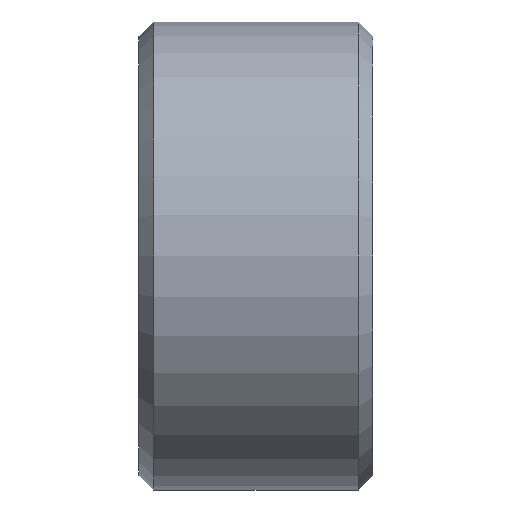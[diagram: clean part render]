
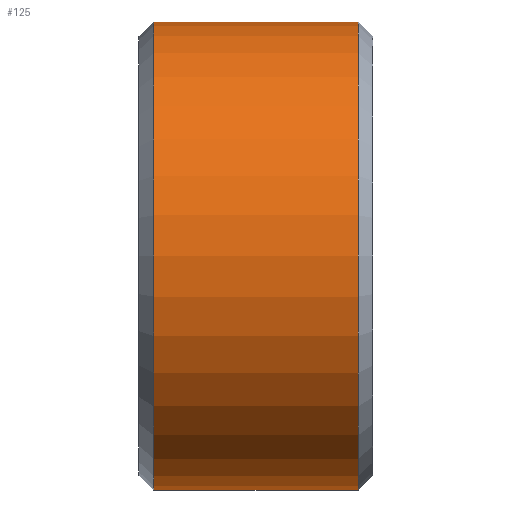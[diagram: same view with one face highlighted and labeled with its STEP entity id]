
A CAD part, front view. The second image highlights one B-rep face of the part: STEP entity #125.
In plain terms, the highlighted cylindrical face has radius 8 mm (diameter 16 mm), a full revolution.
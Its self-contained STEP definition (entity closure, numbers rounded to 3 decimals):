
#15=CYLINDRICAL_SURFACE('',#160,8.);
#23=FACE_OUTER_BOUND('',#32,.T.);
#32=EDGE_LOOP('',(#94,#95,#96,#97,#98,#99));
#40=LINE('',#233,#46);
#46=VECTOR('',#193,8.);
#52=CIRCLE('',#156,8.);
#53=CIRCLE('',#157,8.);
#55=CIRCLE('',#161,8.);
#56=CIRCLE('',#162,8.);
#62=VERTEX_POINT('',#220);
#63=VERTEX_POINT('',#222);
#65=VERTEX_POINT('',#229);
#66=VERTEX_POINT('',#230);
#73=EDGE_CURVE('',#62,#63,#52,.T.);
#74=EDGE_CURVE('',#63,#62,#53,.T.);
#76=EDGE_CURVE('',#65,#66,#55,.T.);
#77=EDGE_CURVE('',#66,#65,#56,.T.);
#78=EDGE_CURVE('',#66,#63,#40,.T.);
#94=ORIENTED_EDGE('',*,*,#76,.F.);
#95=ORIENTED_EDGE('',*,*,#77,.F.);
#96=ORIENTED_EDGE('',*,*,#78,.T.);
#97=ORIENTED_EDGE('',*,*,#73,.F.);
#98=ORIENTED_EDGE('',*,*,#74,.F.);
#99=ORIENTED_EDGE('',*,*,#78,.F.);
#125=ADVANCED_FACE('',(#23),#15,.T.);
#156=AXIS2_PLACEMENT_3D('',#223,#179,#180);
#157=AXIS2_PLACEMENT_3D('',#224,#181,#182);
#160=AXIS2_PLACEMENT_3D('',#228,#187,#188);
#161=AXIS2_PLACEMENT_3D('',#231,#189,#190);
#162=AXIS2_PLACEMENT_3D('',#232,#191,#192);
#179=DIRECTION('center_axis',(-1.,0.,0.));
#180=DIRECTION('ref_axis',(0.,-1.,0.));
#181=DIRECTION('center_axis',(-1.,0.,0.));
#182=DIRECTION('ref_axis',(0.,-1.,0.));
#187=DIRECTION('center_axis',(1.,0.,0.));
#188=DIRECTION('ref_axis',(0.,1.,0.));
#189=DIRECTION('center_axis',(1.,0.,0.));
#190=DIRECTION('ref_axis',(0.,-1.,0.));
#191=DIRECTION('center_axis',(1.,0.,0.));
#192=DIRECTION('ref_axis',(0.,-1.,0.));
#193=DIRECTION('',(-1.,0.,0.));
#220=CARTESIAN_POINT('',(-3.5,8.,0.));
#222=CARTESIAN_POINT('',(-3.5,-8.,0.));
#223=CARTESIAN_POINT('Origin',(-3.5,0.,0.));
#224=CARTESIAN_POINT('Origin',(-3.5,0.,0.));
#228=CARTESIAN_POINT('Origin',(0.,0.,0.));
#229=CARTESIAN_POINT('',(3.5,8.,0.));
#230=CARTESIAN_POINT('',(3.5,-8.,0.));
#231=CARTESIAN_POINT('Origin',(3.5,0.,0.));
#232=CARTESIAN_POINT('Origin',(3.5,0.,0.));
#233=CARTESIAN_POINT('',(0.,-8.,0.));
